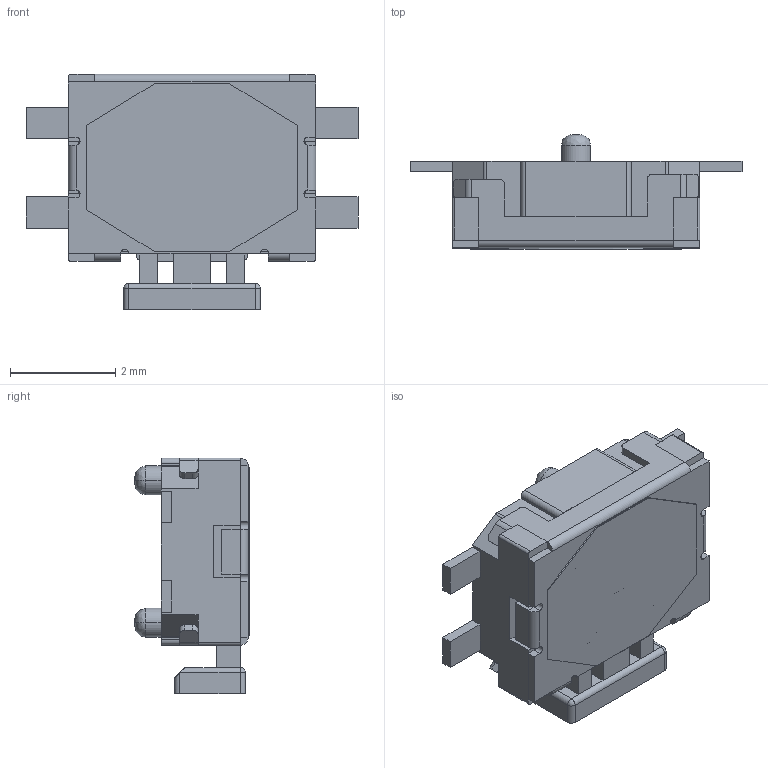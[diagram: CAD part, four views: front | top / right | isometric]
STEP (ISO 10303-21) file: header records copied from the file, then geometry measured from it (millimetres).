
FILE_DESCRIPTION((''),'2;1');
FILE_NAME('JQD4735-C-DEG-1_405_ASM','2026-05-18T15:34:34',('Admin'),(''),'CREO PARAMETRIC BY PTC INC, 2019224','CREO PARAMETRIC BY PTC INC, 2019224','');
FILE_SCHEMA(('AUTOMOTIVE_DESIGN { 1 0 10303 214 1 1 1 1 }'));
Length unit declared in the file: millimetre
Products named in the file (5): JQD4735-C-DEG-1_405_01; JQD4735-C-DEG-1_405_02; JQD4735-C-DEG-1_405_03; JQD4735-C-DEG-1_405_04; JQD4735-C-DEG-1_405_ASM
Assembly tree (4 placements, depth 2):
  JQD4735-C-DEG-1_405_ASM
    JQD4735-C-DEG-1_405_01
    JQD4735-C-DEG-1_405_02
    JQD4735-C-DEG-1_405_03
    JQD4735-C-DEG-1_405_04
Bounding box: 6.3 x 2.17 x 4.47 mm (x, y, z)
Volume: 25.1 mm3; surface area: 177.4 mm2
Topology: 4 solids, 5 shells, 336 faces, 867 edges, 542 vertices
Faces by surface type: plane 220, cylinder 92, bspline 18, sphere 6
Entity records: 12711 total; most frequent: CARTESIAN_POINT 2802, ORIENTED_EDGE 1720, DIRECTION 1659, EDGE_CURVE 860, VECTOR 627, LINE 627, VERTEX_POINT 536, AXIS2_PLACEMENT_3D 516
